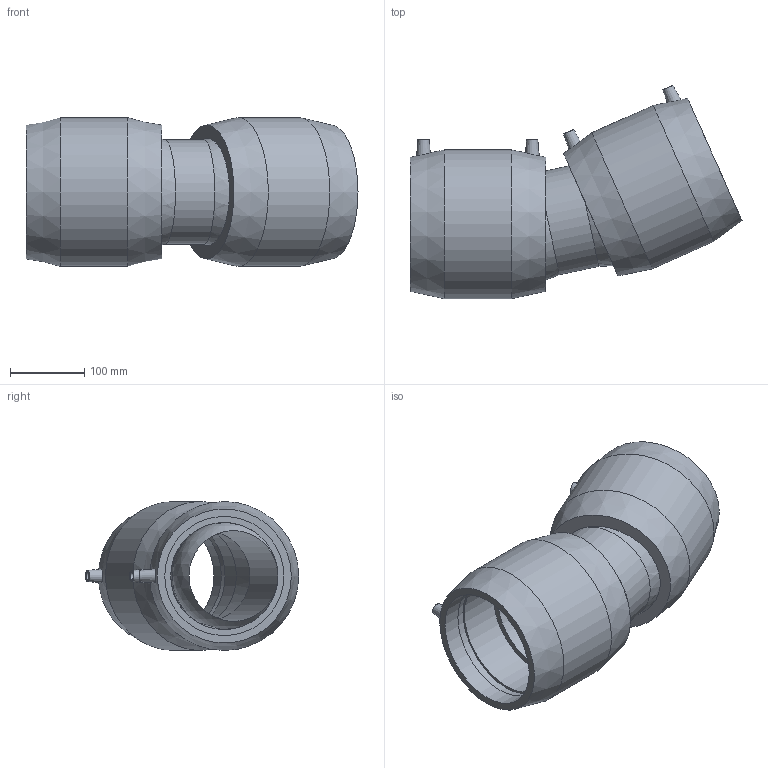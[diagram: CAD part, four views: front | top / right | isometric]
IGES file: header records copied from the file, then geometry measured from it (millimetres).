
Global section: file name: 4947C4160.ipt; native system: Autodesk Inventor 2015; preprocessor: unknown; author: KIM; date: 20190124.130441; units: millimetre
Bounding box: 446.04 x 286.8 x 200 mm (x, y, z)
Volume: 4898019.5 mm3; surface area: 554557.4 mm2
Topology: 1 solids, 1 shells, 50 faces, 114 edges, 78 vertices
Faces by surface type: plane 20, revolution 13, cone 8, cylinder 7, sphere 2
Full cylindrical faces by diameter (mm): 4 x4, 140.138 x1, 200 x2
